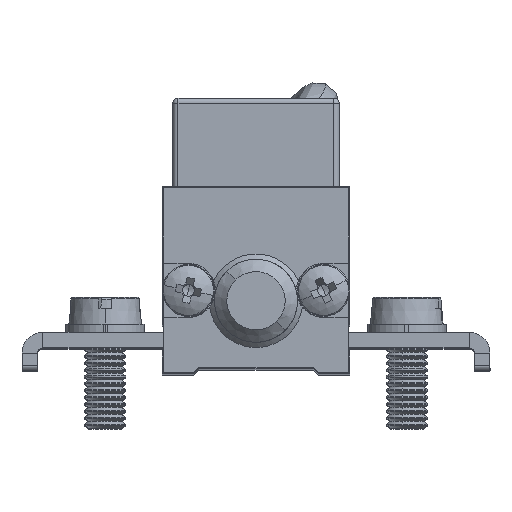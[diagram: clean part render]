
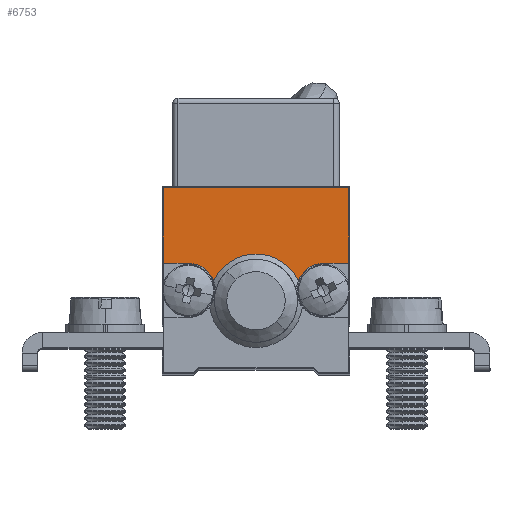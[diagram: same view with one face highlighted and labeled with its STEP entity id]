
A CAD part, top view. The second image highlights one B-rep face of the part: STEP entity #6753.
In plain terms, the highlighted planar face has unit normal (0, 0, 1) as drawn and (0, 0, -1) by its records, which use the part's own axes.
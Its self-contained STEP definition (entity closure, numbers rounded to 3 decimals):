
#856 = CIRCLE ( 'NONE', #25213, 4.5 ) ;
#2530 = CARTESIAN_POINT ( 'NONE',  ( 4.831, 8.822, -4. ) ) ;
#2566 = CARTESIAN_POINT ( 'NONE',  ( 12.969, 8.822, -4. ) ) ;
#2589 = CARTESIAN_POINT ( 'NONE',  ( 0., 10.5, -4. ) ) ;
#2610 = CARTESIAN_POINT ( 'NONE',  ( 17.8, 17.8, -4. ) ) ;
#2658 = CARTESIAN_POINT ( 'NONE',  ( 2.4, 10.5, -4. ) ) ;
#2718 = CARTESIAN_POINT ( 'NONE',  ( 15.4, 10.5, -4. ) ) ;
#2731 = CARTESIAN_POINT ( 'NONE',  ( 17.8, 10.5, -4. ) ) ;
#2902 = CARTESIAN_POINT ( 'NONE',  ( 0., 17.8, -4. ) ) ;
#3177 = CARTESIAN_POINT ( 'NONE',  ( 8.9, 6.9, -4. ) ) ;
#3178 = DIRECTION ( 'NONE',  ( 0., 0., -1. ) ) ;
#3179 = DIRECTION ( 'NONE',  ( 1., 0., 0. ) ) ;
#4627 = DIRECTION ( 'NONE',  ( 0., 1., 0. ) ) ;
#4701 = CARTESIAN_POINT ( 'NONE',  ( 17.8, 0., -4. ) ) ;
#4729 = DIRECTION ( 'NONE',  ( -1., 0., 0. ) ) ;
#4765 = CARTESIAN_POINT ( 'NONE',  ( 17.8, 17.8, -4. ) ) ;
#4881 = DIRECTION ( 'NONE',  ( 0., -1., 0. ) ) ;
#4890 = CARTESIAN_POINT ( 'NONE',  ( 17.8, 10.5, -4. ) ) ;
#4921 = CARTESIAN_POINT ( 'NONE',  ( 0., 0., -4. ) ) ;
#4934 = DIRECTION ( 'NONE',  ( 1., 0., 0. ) ) ;
#5536 = CARTESIAN_POINT ( 'NONE',  ( 17.8, 10.5, -4. ) ) ;
#5544 = DIRECTION ( 'NONE',  ( 1., 0., 0. ) ) ;
#5823 = DIRECTION ( 'NONE',  ( 1., 0., 0. ) ) ;
#5824 = DIRECTION ( 'NONE',  ( 0., 0., -1. ) ) ;
#5825 = CARTESIAN_POINT ( 'NONE',  ( 15.4, 7.9, -4. ) ) ;
#6080 = EDGE_CURVE ( 'NONE', #12750, #12902, #14658, .T. ) ;
#6166 = EDGE_CURVE ( 'NONE', #12902, #12915, #14773, .T. ) ;
#6295 = EDGE_CURVE ( 'NONE', #12915, #12794, #14954, .T. ) ;
#6322 = EDGE_CURVE ( 'NONE', #12794, #13086, #14997, .T. ) ;
#6371 = EDGE_CURVE ( 'NONE', #13086, #12773, #15061, .T. ) ;
#6376 = EDGE_CURVE ( 'NONE', #12773, #12842, #15068, .T. ) ;
#6753 = ADVANCED_FACE ( 'NONE', ( #17190 ), #18568, .F. ) ;
#9380 = EDGE_LOOP ( 'NONE', ( #14247, #14155, #14248, #14242, #14189, #14249, #14293, #14186 ) ) ;
#10210 = EDGE_CURVE ( 'NONE', #12842, #12685, #22789, .T. ) ;
#12162 = AXIS2_PLACEMENT_3D ( 'NONE', #5825, #5824, #5823 ) ;
#12685 = VERTEX_POINT ( 'NONE', #2530 ) ;
#12750 = VERTEX_POINT ( 'NONE', #2566 ) ;
#12773 = VERTEX_POINT ( 'NONE', #2589 ) ;
#12794 = VERTEX_POINT ( 'NONE', #2610 ) ;
#12842 = VERTEX_POINT ( 'NONE', #2658 ) ;
#12902 = VERTEX_POINT ( 'NONE', #2718 ) ;
#12915 = VERTEX_POINT ( 'NONE', #2731 ) ;
#13086 = VERTEX_POINT ( 'NONE', #2902 ) ;
#14155 = ORIENTED_EDGE ( 'NONE', *, *, #6376, .F. ) ;
#14186 = ORIENTED_EDGE ( 'NONE', *, *, #16603, .F. ) ;
#14189 = ORIENTED_EDGE ( 'NONE', *, *, #6295, .F. ) ;
#14242 = ORIENTED_EDGE ( 'NONE', *, *, #6322, .F. ) ;
#14247 = ORIENTED_EDGE ( 'NONE', *, *, #10210, .F. ) ;
#14248 = ORIENTED_EDGE ( 'NONE', *, *, #6371, .F. ) ;
#14249 = ORIENTED_EDGE ( 'NONE', *, *, #6166, .F. ) ;
#14293 = ORIENTED_EDGE ( 'NONE', *, *, #6080, .F. ) ;
#14658 = CIRCLE ( 'NONE', #12162, 2.6 ) ;
#14773 = LINE ( 'NONE', #5536, #14778 ) ;
#14778 = VECTOR ( 'NONE', #5544, 1000. ) ;
#14954 = LINE ( 'NONE', #4701, #14959 ) ;
#14959 = VECTOR ( 'NONE', #4627, 1000. ) ;
#14997 = LINE ( 'NONE', #4765, #15000 ) ;
#15000 = VECTOR ( 'NONE', #4729, 1000. ) ;
#15061 = LINE ( 'NONE', #4921, #15064 ) ;
#15064 = VECTOR ( 'NONE', #4881, 1000. ) ;
#15068 = LINE ( 'NONE', #4890, #15071 ) ;
#15071 = VECTOR ( 'NONE', #4934, 1000. ) ;
#16603 = EDGE_CURVE ( 'NONE', #12685, #12750, #856, .T. ) ;
#17190 = FACE_OUTER_BOUND ( 'NONE', #9380, .T. ) ;
#18566 = CARTESIAN_POINT ( 'NONE',  ( 17.8, 0., -4. ) ) ;
#18568 = PLANE ( 'NONE',  #19118 ) ;
#18571 = DIRECTION ( 'NONE',  ( 0., 0., 1. ) ) ;
#18572 = DIRECTION ( 'NONE',  ( 1., 0., 0. ) ) ;
#19118 = AXIS2_PLACEMENT_3D ( 'NONE', #18566, #18571, #18572 ) ;
#19624 = AXIS2_PLACEMENT_3D ( 'NONE', #22407, #22408, #22409 ) ;
#22407 = CARTESIAN_POINT ( 'NONE',  ( 2.4, 7.9, -4. ) ) ;
#22408 = DIRECTION ( 'NONE',  ( 0., 0., -1. ) ) ;
#22409 = DIRECTION ( 'NONE',  ( 1., 0., 0. ) ) ;
#22789 = CIRCLE ( 'NONE', #19624, 2.6 ) ;
#25213 = AXIS2_PLACEMENT_3D ( 'NONE', #3177, #3178, #3179 ) ;
